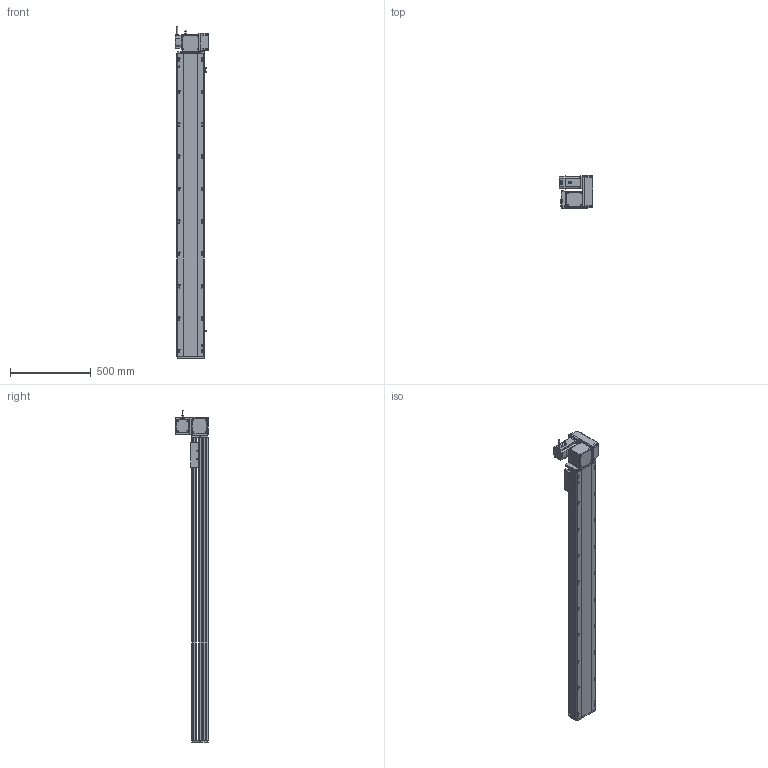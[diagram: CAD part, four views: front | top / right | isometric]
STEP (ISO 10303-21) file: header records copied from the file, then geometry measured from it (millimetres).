
FILE_DESCRIPTION (( 'STEP AP214' ), '1' );
FILE_NAME ('RTB17S-XX-1600-RW-M75-C4.STEP', '2025-12-12T02:39:35', ( '' ), ( '' ), 'SwSTEP 2.0', 'SolidWorks 2018', '' );
FILE_SCHEMA (( 'AUTOMOTIVE_DESIGN' ));
Length unit declared in the file: millimetre
Products named in the file (15): RTB22S-GY-018P^RTB17S-RW-々湍釱蚾饜-750W_RTB17S-XX-XX-RW-M75-C4; RTB17-R-011菁釱^RTB17S-XX-XX-RW-M75-C4; RTB17S-L-004-賑釱^RTB17S-賑釱_RTB17S-XX-XX-RW-M75-C4; RTB22S-GY-017P^RTB17S-RW-々湍釱蚾饜-750W_RTB17S-XX-XX-RW-M75-C4; RTB17S-賑釱^RTB17S-XX-XX-RW-M75-C4; RTB17S-L-001-耜醱啣^RTB17S-XX-XX-RW-M75-C4; RTB17S-XX-1600-RW-M75-C4; RTB22S-GY-008-M75--萇儂啣^RTB17S-RW-々湍釱蚾饜-750W_RTB17S-XX-XX-RW-M75-C4; RMP17S-L-014-T20-P75--々湍釱^RTB17S-RW-々湍釱蚾饜-750W_RTB17S-XX-XX-RW-M75-C4; 750W萇儂^RTB17S-XX-XX-RW-M75-C4; RTB17S-L-007奻裔^RTB17S-XX-XX-RW-M75-C4; RTB22S-GY-005P^RTB17S-RW-々湍釱蚾饜-750W_RTB17S-XX-XX-RW-M75-C4; RTH13-BL-012覜茼え俋离^RTB17S-賑釱_RTB17S-XX-XX-RW-M75-C4; RTB17S-RW-々湍釱蚾饜-750W^RTB17S-XX-XX-RW-M75-C4; EE672^RTB17S-XX-XX-RW-M75-C4
Assembly tree (17 placements, depth 3):
  RTB17S-XX-1600-RW-M75-C4
    RTB17-R-011菁釱^RTB17S-XX-XX-RW-M75-C4
    EE672^RTB17S-XX-XX-RW-M75-C4  x3
    RTB17S-L-001-耜醱啣^RTB17S-XX-XX-RW-M75-C4
    RTB17S-賑釱^RTB17S-XX-XX-RW-M75-C4
      RTB17S-L-004-賑釱^RTB17S-賑釱_RTB17S-XX-XX-RW-M75-C4
      RTH13-BL-012覜茼え俋离^RTB17S-賑釱_RTB17S-XX-XX-RW-M75-C4
    RTB17S-L-007奻裔^RTB17S-XX-XX-RW-M75-C4
    750W萇儂^RTB17S-XX-XX-RW-M75-C4
    RTB17S-RW-々湍釱蚾饜-750W^RTB17S-XX-XX-RW-M75-C4
      RMP17S-L-014-T20-P75--々湍釱^RTB17S-RW-々湍釱蚾饜-750W_RTB17S-XX-XX-RW-M75-C4
      RTB22S-GY-005P^RTB17S-RW-々湍釱蚾饜-750W_RTB17S-XX-XX-RW-M75-C4
      RTB22S-GY-017P^RTB17S-RW-々湍釱蚾饜-750W_RTB17S-XX-XX-RW-M75-C4  x2
      RTB22S-GY-008-M75--萇儂啣^RTB17S-RW-々湍釱蚾饜-750W_RTB17S-XX-XX-RW-M75-C4
      RTB22S-GY-018P^RTB17S-RW-々湍釱蚾饜-750W_RTB17S-XX-XX-RW-M75-C4
Bounding box: 207.4 x 201.5 x 2052.2 mm (x, y, z)
Volume: 15954455.5 mm3; surface area: 2807017.3 mm2
Topology: 17 solids, 17 shells, 2137 faces, 5944 edges, 3842 vertices
Faces by surface type: plane 976, cylinder 745, bspline 294, cone 110, sphere 8, torus 4
Entity records: 60406 total; most frequent: CARTESIAN_POINT 17808, ORIENTED_EDGE 8732, DIRECTION 8132, EDGE_CURVE 4366, AXIS2_PLACEMENT_3D 2862, VERTEX_POINT 2846, LINE 2408, VECTOR 2408
